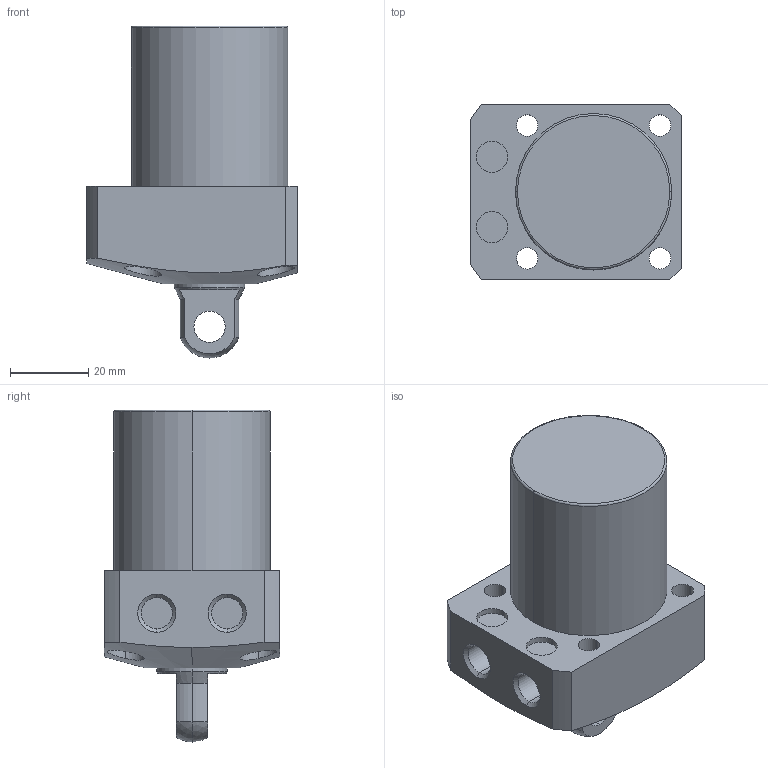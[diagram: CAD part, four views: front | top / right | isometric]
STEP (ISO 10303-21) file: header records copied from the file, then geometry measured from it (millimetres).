
FILE_DESCRIPTION (( 'STEP AP203' ), '1' );
FILE_NAME ('CLL-0400-CP-30.STEP', '2017-05-09T06:40:32', ( '' ), ( '' ), 'SwSTEP 2.0', 'SolidWorks 2015', '' );
FILE_SCHEMA (( 'CONFIG_CONTROL_DESIGN' ));
Length unit declared in the file: millimetre
Products named in the file (1): CLL-0400-CP-30
Bounding box: 54 x 45 x 85 mm (x, y, z)
Volume: 103565.6 mm3; surface area: 17081.2 mm2
Topology: 1 solids, 1 shells, 68 faces, 159 edges, 103 vertices
Faces by surface type: cylinder 35, plane 21, cone 8, sphere 2, torus 2
Entity records: 2379 total; most frequent: CARTESIAN_POINT 682, DIRECTION 357, ORIENTED_EDGE 318, EDGE_CURVE 159, AXIS2_PLACEMENT_3D 149, VERTEX_POINT 103, EDGE_LOOP 88, CIRCLE 80
